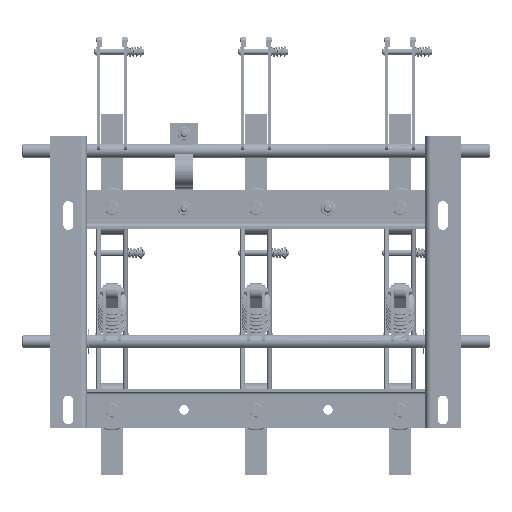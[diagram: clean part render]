
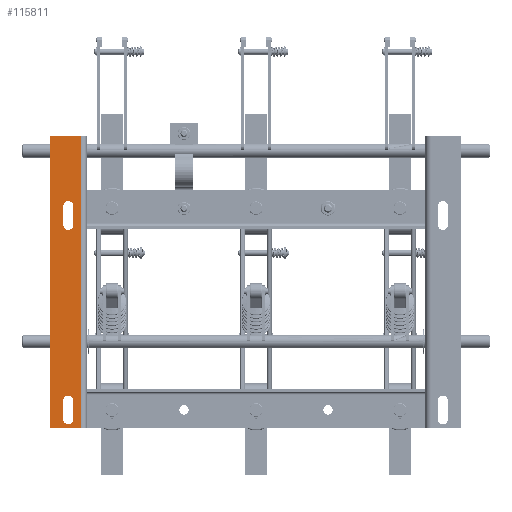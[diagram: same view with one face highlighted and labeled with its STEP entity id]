
A CAD part, front view. The second image highlights one B-rep face of the part: STEP entity #115811.
In plain terms, the highlighted planar face has unit normal (0, -1, 0).
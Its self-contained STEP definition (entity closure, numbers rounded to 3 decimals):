
#2372 = EDGE_CURVE ( 'NONE', #142533, #47286, #59553, .T. ) ;
#5550 = EDGE_CURVE ( 'NONE', #121670, #108983, #53581, .T. ) ;
#6250 = EDGE_LOOP ( 'NONE', ( #19933, #52425, #67106, #108516 ) ) ;
#7275 = EDGE_CURVE ( 'NONE', #45869, #121670, #54277, .T. ) ;
#13037 = LINE ( 'NONE', #61733, #72520 ) ;
#13569 = ORIENTED_EDGE ( 'NONE', *, *, #110966, .T. ) ;
#13847 = EDGE_CURVE ( 'NONE', #142533, #66198, #80878, .T. ) ;
#14203 = CARTESIAN_POINT ( 'NONE',  ( -242.4, 0., -160. ) ) ;
#16193 = VECTOR ( 'NONE', #134189, 1000. ) ;
#17150 = EDGE_CURVE ( 'NONE', #92946, #117022, #131607, .T. ) ;
#17656 = DIRECTION ( 'NONE',  ( 0., 0., 1. ) ) ;
#18869 = EDGE_CURVE ( 'NONE', #70721, #92946, #85408, .T. ) ;
#19933 = ORIENTED_EDGE ( 'NONE', *, *, #13847, .T. ) ;
#21146 = VECTOR ( 'NONE', #54538, 1000. ) ;
#24445 = CARTESIAN_POINT ( 'NONE',  ( -285.604, 0., 245. ) ) ;
#24650 = CARTESIAN_POINT ( 'NONE',  ( -253.104, 0., 122. ) ) ;
#26144 = AXIS2_PLACEMENT_3D ( 'NONE', #49543, #127685, #60787 ) ;
#27202 = CIRCLE ( 'NONE', #144191, 7. ) ;
#27500 = CARTESIAN_POINT ( 'NONE',  ( -285.604, 0., -160. ) ) ;
#28060 = AXIS2_PLACEMENT_3D ( 'NONE', #115771, #115626, #115606 ) ;
#28693 = EDGE_CURVE ( 'NONE', #139073, #70721, #70742, .T. ) ;
#28986 = DIRECTION ( 'NONE',  ( -1., 0., 0. ) ) ;
#33281 = VECTOR ( 'NONE', #28986, 1000. ) ;
#33458 = ORIENTED_EDGE ( 'NONE', *, *, #55522, .T. ) ;
#37828 = PLANE ( 'NONE',  #26144 ) ;
#41029 = DIRECTION ( 'NONE',  ( 0., 1., 0. ) ) ;
#43257 = CARTESIAN_POINT ( 'NONE',  ( -285.604, 0., -160. ) ) ;
#43518 = ORIENTED_EDGE ( 'NONE', *, *, #7275, .T. ) ;
#44007 = CIRCLE ( 'NONE', #82150, 7. ) ;
#45192 = VERTEX_POINT ( 'NONE', #60723 ) ;
#45869 = VERTEX_POINT ( 'NONE', #67116 ) ;
#46547 = ORIENTED_EDGE ( 'NONE', *, *, #28693, .T. ) ;
#47286 = VERTEX_POINT ( 'NONE', #27500 ) ;
#49543 = CARTESIAN_POINT ( 'NONE',  ( -285.604, 0., 47.5 ) ) ;
#50438 = DIRECTION ( 'NONE',  ( 0., 1., 0. ) ) ;
#51158 = VECTOR ( 'NONE', #113008, 1000. ) ;
#52425 = ORIENTED_EDGE ( 'NONE', *, *, #95214, .F. ) ;
#52428 = DIRECTION ( 'NONE',  ( 0., 0., 1. ) ) ;
#53085 = EDGE_LOOP ( 'NONE', ( #33458, #46547, #67189, #123987 ) ) ;
#53581 = CIRCLE ( 'NONE', #28060, 7. ) ;
#53875 = FACE_OUTER_BOUND ( 'NONE', #6250, .T. ) ;
#54277 = LINE ( 'NONE', #81962, #80526 ) ;
#54538 = DIRECTION ( 'NONE',  ( 0., 0., 1. ) ) ;
#54613 = ORIENTED_EDGE ( 'NONE', *, *, #5550, .T. ) ;
#55020 = DIRECTION ( 'NONE',  ( 0., 1., 0. ) ) ;
#55522 = EDGE_CURVE ( 'NONE', #117022, #139073, #44007, .T. ) ;
#59553 = LINE ( 'NONE', #110684, #33281 ) ;
#60723 = CARTESIAN_POINT ( 'NONE',  ( -267.104, 0., -122. ) ) ;
#60787 = DIRECTION ( 'NONE',  ( 1., 0., 0. ) ) ;
#61733 = CARTESIAN_POINT ( 'NONE',  ( -267.104, 0., -148. ) ) ;
#66198 = VERTEX_POINT ( 'NONE', #103149 ) ;
#67106 = ORIENTED_EDGE ( 'NONE', *, *, #144363, .F. ) ;
#67116 = CARTESIAN_POINT ( 'NONE',  ( -253.104, 0., -122. ) ) ;
#67189 = ORIENTED_EDGE ( 'NONE', *, *, #18869, .T. ) ;
#67281 = CARTESIAN_POINT ( 'NONE',  ( -253.104, 0., 148. ) ) ;
#68859 = CARTESIAN_POINT ( 'NONE',  ( -267.104, 0., 122. ) ) ;
#70721 = VERTEX_POINT ( 'NONE', #80232 ) ;
#70742 = LINE ( 'NONE', #129099, #93458 ) ;
#70861 = VERTEX_POINT ( 'NONE', #82644 ) ;
#72520 = VECTOR ( 'NONE', #52428, 1000. ) ;
#73283 = AXIS2_PLACEMENT_3D ( 'NONE', #108004, #41029, #119173 ) ;
#79151 = CARTESIAN_POINT ( 'NONE',  ( -267.104, 0., -148. ) ) ;
#79766 = CARTESIAN_POINT ( 'NONE',  ( -242.4, 0., -160. ) ) ;
#80232 = CARTESIAN_POINT ( 'NONE',  ( -267.104, 0., 148. ) ) ;
#80526 = VECTOR ( 'NONE', #83400, 1000. ) ;
#80878 = LINE ( 'NONE', #79766, #51158 ) ;
#80912 = EDGE_LOOP ( 'NONE', ( #54613, #13569, #128534, #43518 ) ) ;
#81962 = CARTESIAN_POINT ( 'NONE',  ( -253.104, 0., -122. ) ) ;
#82150 = AXIS2_PLACEMENT_3D ( 'NONE', #117292, #50438, #128557 ) ;
#82303 = VECTOR ( 'NONE', #92312, 1000. ) ;
#82644 = CARTESIAN_POINT ( 'NONE',  ( -285.604, 0., 245. ) ) ;
#83400 = DIRECTION ( 'NONE',  ( 0., 0., -1. ) ) ;
#83630 = FACE_BOUND ( 'NONE', #53085, .T. ) ;
#85408 = CIRCLE ( 'NONE', #73283, 7. ) ;
#87089 = FACE_BOUND ( 'NONE', #80912, .T. ) ;
#90796 = EDGE_CURVE ( 'NONE', #45192, #45869, #27202, .T. ) ;
#92312 = DIRECTION ( 'NONE',  ( 1., 0., 0. ) ) ;
#92946 = VERTEX_POINT ( 'NONE', #124523 ) ;
#93458 = VECTOR ( 'NONE', #17656, 1000. ) ;
#95214 = EDGE_CURVE ( 'NONE', #70861, #66198, #141726, .T. ) ;
#103149 = CARTESIAN_POINT ( 'NONE',  ( -242.4, 0., 245. ) ) ;
#108004 = CARTESIAN_POINT ( 'NONE',  ( -260.104, 0., 148. ) ) ;
#108516 = ORIENTED_EDGE ( 'NONE', *, *, #2372, .F. ) ;
#108983 = VERTEX_POINT ( 'NONE', #79151 ) ;
#110684 = CARTESIAN_POINT ( 'NONE',  ( -242.4, 0., -160. ) ) ;
#110966 = EDGE_CURVE ( 'NONE', #108983, #45192, #13037, .T. ) ;
#113008 = DIRECTION ( 'NONE',  ( 0., 0., 1. ) ) ;
#115606 = DIRECTION ( 'NONE',  ( 1., 0., 0. ) ) ;
#115626 = DIRECTION ( 'NONE',  ( 0., 1., 0. ) ) ;
#115771 = CARTESIAN_POINT ( 'NONE',  ( -260.104, 0., -148. ) ) ;
#115811 = ADVANCED_FACE ( 'NONE', ( #53875, #87089, #83630 ), #37828, .F. ) ;
#117022 = VERTEX_POINT ( 'NONE', #24650 ) ;
#117292 = CARTESIAN_POINT ( 'NONE',  ( -260.104, 0., 122. ) ) ;
#119173 = DIRECTION ( 'NONE',  ( -1., 0., 0. ) ) ;
#121670 = VERTEX_POINT ( 'NONE', #139561 ) ;
#121889 = CARTESIAN_POINT ( 'NONE',  ( -260.104, 0., -122. ) ) ;
#123987 = ORIENTED_EDGE ( 'NONE', *, *, #17150, .T. ) ;
#124523 = CARTESIAN_POINT ( 'NONE',  ( -253.104, 0., 148. ) ) ;
#127685 = DIRECTION ( 'NONE',  ( 0., 1., 0. ) ) ;
#128534 = ORIENTED_EDGE ( 'NONE', *, *, #90796, .T. ) ;
#128557 = DIRECTION ( 'NONE',  ( 1., 0., 0. ) ) ;
#129099 = CARTESIAN_POINT ( 'NONE',  ( -267.104, 0., 122. ) ) ;
#131607 = LINE ( 'NONE', #67281, #16193 ) ;
#133165 = DIRECTION ( 'NONE',  ( -1., 0., 0. ) ) ;
#134189 = DIRECTION ( 'NONE',  ( 0., 0., -1. ) ) ;
#139073 = VERTEX_POINT ( 'NONE', #68859 ) ;
#139561 = CARTESIAN_POINT ( 'NONE',  ( -253.104, 0., -148. ) ) ;
#140068 = LINE ( 'NONE', #43257, #21146 ) ;
#141726 = LINE ( 'NONE', #24445, #82303 ) ;
#142533 = VERTEX_POINT ( 'NONE', #14203 ) ;
#144191 = AXIS2_PLACEMENT_3D ( 'NONE', #121889, #55020, #133165 ) ;
#144363 = EDGE_CURVE ( 'NONE', #47286, #70861, #140068, .T. ) ;
